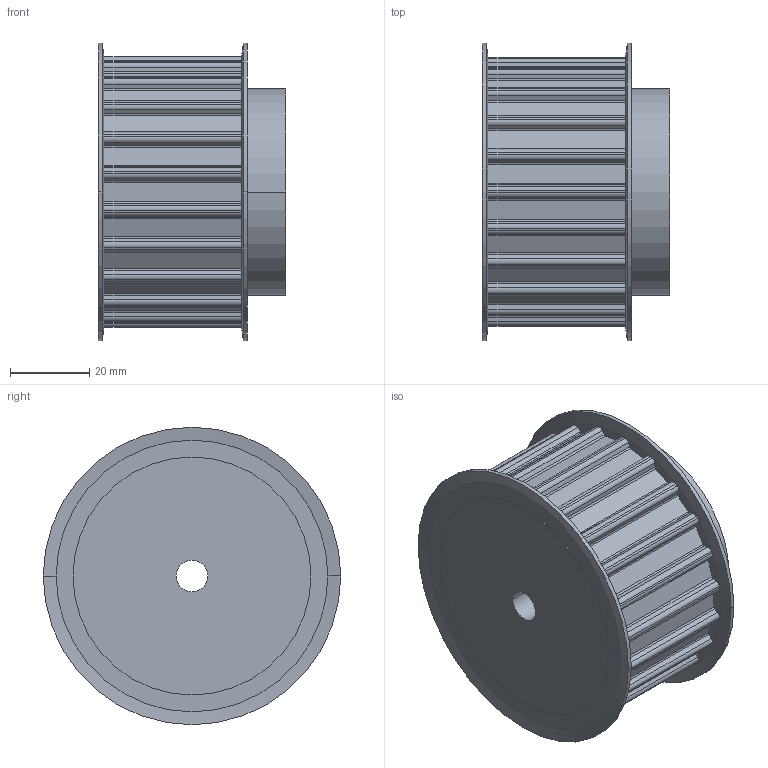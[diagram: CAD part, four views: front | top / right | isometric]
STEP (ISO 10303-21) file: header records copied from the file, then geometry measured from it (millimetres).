
FILE_DESCRIPTION( ( '' ), '1' );
FILE_NAME( 'C:/Users/Stangenbergd/Documents/CAD_Step/1/16842200.stp', '2021-10-19T09:47:01', ( '' ), ( '' ), ' ', ' ', ' ' );
FILE_SCHEMA( ( 'CONFIG_CONTROL_DESIGN' ) );
Length unit declared in the file: millimetre
Products named in the file (1): 1
Bounding box: 47.31 x 75 x 75 mm (x, y, z)
Volume: 143906.2 mm3; surface area: 23342.5 mm2
Topology: 1 solids, 1 shells, 203 faces, 580 edges, 384 vertices
Faces by surface type: cylinder 122, plane 73, cone 8
Entity records: 6770 total; most frequent: DIRECTION 1240, CARTESIAN_POINT 1168, ORIENTED_EDGE 1160, EDGE_CURVE 580, AXIS2_PLACEMENT_3D 456, VERTEX_POINT 384, LINE 328, VECTOR 328
